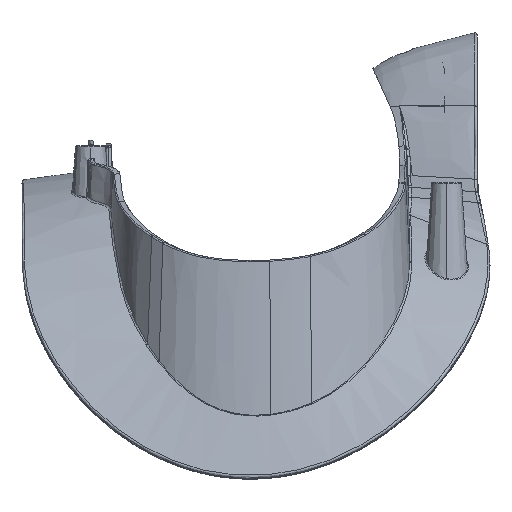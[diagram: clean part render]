
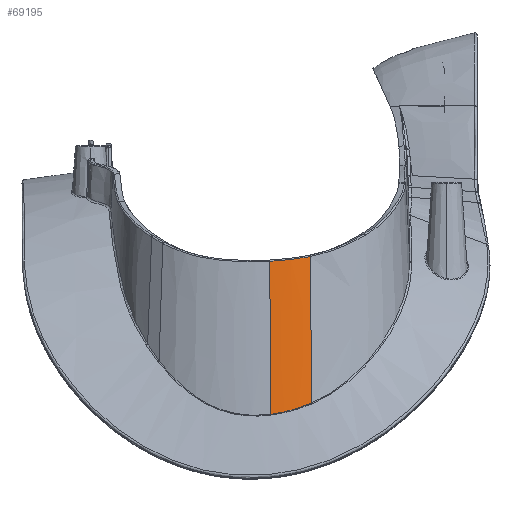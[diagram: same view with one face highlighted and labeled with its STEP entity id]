
A CAD part, left-side view. The second image highlights one B-rep face of the part: STEP entity #69195.
In plain terms, the highlighted free-form (B-spline) face has degree [3, 3] with [9, 4] control points.
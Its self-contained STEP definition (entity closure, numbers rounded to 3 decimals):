
#9129=CARTESIAN_POINT('',(-71.431,-1.546,
-3.011));
#11559=CARTESIAN_POINT('',(-71.802,-10.792,
-34.211));
#11567=CARTESIAN_POINT('',(-73.195,-1.668,
-36.751));
#11729=DIRECTION('',(-0.052,-0.004,-0.999));
#11730=VECTOR('',#11729,33.786);
#11731=CARTESIAN_POINT('',(-71.431,-1.546,
-3.011));
#11732=LINE('',#11731,#11730);
#11736=CARTESIAN_POINT('',(-71.802,-10.792,
-34.211));
#11737=CARTESIAN_POINT('',(-71.835,-10.652,
-34.271));
#11738=CARTESIAN_POINT('',(-71.897,-10.387,
-34.385));
#11739=CARTESIAN_POINT('',(-71.986,-9.995,
-34.548));
#11740=CARTESIAN_POINT('',(-72.07,-9.605,
-34.703));
#11741=CARTESIAN_POINT('',(-72.157,-9.189,
-34.863));
#11742=CARTESIAN_POINT('',(-72.248,-8.729,
-35.032));
#11743=CARTESIAN_POINT('',(-72.346,-8.217,
-35.212));
#11744=CARTESIAN_POINT('',(-72.45,-7.644,
-35.404));
#11745=CARTESIAN_POINT('',(-72.56,-7.003,
-35.607));
#11746=CARTESIAN_POINT('',(-72.669,-6.311,
-35.809));
#11747=CARTESIAN_POINT('',(-72.771,-5.609,
-35.996));
#11748=CARTESIAN_POINT('',(-72.861,-4.938,
-36.161));
#11749=CARTESIAN_POINT('',(-72.938,-4.321,-36.3));
#11750=CARTESIAN_POINT('',(-73.003,-3.757,
-36.416));
#11751=CARTESIAN_POINT('',(-73.056,-3.246,
-36.512));
#11752=CARTESIAN_POINT('',(-73.101,-2.787,
-36.591));
#11753=CARTESIAN_POINT('',(-73.138,-2.378,
-36.655));
#11754=CARTESIAN_POINT('',(-73.169,-2.011,
-36.707));
#11755=CARTESIAN_POINT('',(-73.187,-1.779,
-36.738));
#11756=CARTESIAN_POINT('',(-73.195,-1.668,
-36.751));
#11761=CARTESIAN_POINT('',(-71.431,-1.546,
-3.011));
#11762=CARTESIAN_POINT('',(-71.431,-1.549,
-3.011));
#11763=CARTESIAN_POINT('',(-71.427,-1.598,
-3.008));
#11764=CARTESIAN_POINT('',(-71.42,-1.697,
-3.004));
#11765=CARTESIAN_POINT('',(-71.409,-1.849,
-2.995));
#11766=CARTESIAN_POINT('',(-71.396,-2.014,
-2.986));
#11767=CARTESIAN_POINT('',(-71.381,-2.195,
-2.975));
#11768=CARTESIAN_POINT('',(-71.365,-2.396,
-2.962));
#11769=CARTESIAN_POINT('',(-71.345,-2.619,
-2.948));
#11770=CARTESIAN_POINT('',(-71.323,-2.866,
-2.931));
#11771=CARTESIAN_POINT('',(-71.297,-3.141,
-2.912));
#11772=CARTESIAN_POINT('',(-71.267,-3.446,
-2.889));
#11773=CARTESIAN_POINT('',(-71.232,-3.783,
-2.862));
#11774=CARTESIAN_POINT('',(-71.191,-4.156,
-2.83));
#11775=CARTESIAN_POINT('',(-71.144,-4.566,
-2.793));
#11776=CARTESIAN_POINT('',(-71.088,-5.021,
-2.75));
#11777=CARTESIAN_POINT('',(-71.022,-5.53,
-2.697));
#11778=CARTESIAN_POINT('',(-70.943,-6.096,
-2.634));
#11779=CARTESIAN_POINT('',(-70.854,-6.696,
-2.561));
#11780=CARTESIAN_POINT('',(-70.76,-7.283,
-2.484));
#11781=CARTESIAN_POINT('',(-70.67,-7.819,
-2.409));
#11782=CARTESIAN_POINT('',(-70.586,-8.291,
-2.339));
#11783=CARTESIAN_POINT('',(-70.508,-8.708,
-2.273));
#11784=CARTESIAN_POINT('',(-70.437,-9.079,
-2.212));
#11785=CARTESIAN_POINT('',(-70.37,-9.41,
-2.156));
#11786=CARTESIAN_POINT('',(-70.31,-9.705,
-2.104));
#11787=CARTESIAN_POINT('',(-70.253,-9.969,
-2.055));
#11788=CARTESIAN_POINT('',(-70.201,-10.207,
-2.01));
#11789=CARTESIAN_POINT('',(-70.168,-10.357,
-1.981));
#11790=CARTESIAN_POINT('',(-70.152,-10.428,
-1.967));
#11795=DIRECTION('',(-0.051,-0.011,-0.999));
#11796=VECTOR('',#11795,32.287);
#11797=CARTESIAN_POINT('',(-70.152,-10.428,
-1.967));
#11798=LINE('',#11797,#11796);
#25839=VERTEX_POINT('',#9129);
#25841=CARTESIAN_POINT('',(-70.152,-10.428,
-1.967));
#25843=VERTEX_POINT('',#25841);
#26004=VERTEX_POINT('',#11559);
#26005=VERTEX_POINT('',#11567);
#69151=CARTESIAN_POINT('',(-73.244,-1.483,
-37.444));
#69152=CARTESIAN_POINT('',(-72.632,-1.44,
-25.748));
#69153=CARTESIAN_POINT('',(-72.021,-1.397,
-14.051));
#69154=CARTESIAN_POINT('',(-71.409,-1.353,
-2.355));
#69155=CARTESIAN_POINT('',(-73.239,-1.545,
-37.438));
#69156=CARTESIAN_POINT('',(-72.628,-1.501,
-25.742));
#69157=CARTESIAN_POINT('',(-72.017,-1.457,
-14.046));
#69158=CARTESIAN_POINT('',(-71.405,-1.413,
-2.349));
#69159=CARTESIAN_POINT('',(-73.186,-2.285,
-37.369));
#69160=CARTESIAN_POINT('',(-72.575,-2.234,
-25.672));
#69161=CARTESIAN_POINT('',(-71.964,-2.183,
-13.976));
#69162=CARTESIAN_POINT('',(-71.353,-2.131,
-2.28));
#69163=CARTESIAN_POINT('',(-73.038,-3.968,
-37.173));
#69164=CARTESIAN_POINT('',(-72.428,-3.901,
-25.477));
#69165=CARTESIAN_POINT('',(-71.819,-3.833,
-13.78));
#69166=CARTESIAN_POINT('',(-71.209,-3.765,
-2.084));
#69167=CARTESIAN_POINT('',(-72.671,-6.754,
-36.683));
#69168=CARTESIAN_POINT('',(-72.065,-6.661,
-24.987));
#69169=CARTESIAN_POINT('',(-71.459,-6.567,
-13.291));
#69170=CARTESIAN_POINT('',(-70.854,-6.473,
-1.594));
#69171=CARTESIAN_POINT('',(-72.228,-9.215,
-36.087));
#69172=CARTESIAN_POINT('',(-71.627,-9.096,
-24.391));
#69173=CARTESIAN_POINT('',(-71.026,-8.976,
-12.695));
#69174=CARTESIAN_POINT('',(-70.424,-8.857,
-0.999));
#69175=CARTESIAN_POINT('',(-71.975,-10.376,
-35.755));
#69176=CARTESIAN_POINT('',(-71.377,-10.242,
-24.059));
#69177=CARTESIAN_POINT('',(-70.778,-10.109,
-12.362));
#69178=CARTESIAN_POINT('',(-70.18,-9.975,
-0.666));
#69179=CARTESIAN_POINT('',(-71.843,-10.943,
-35.582));
#69180=CARTESIAN_POINT('',(-71.246,-10.803,
-23.886));
#69181=CARTESIAN_POINT('',(-70.649,-10.663,
-12.189));
#69182=CARTESIAN_POINT('',(-70.053,-10.523,
-0.493));
#69183=CARTESIAN_POINT('',(-71.83,-11.,
-35.564));
#69184=CARTESIAN_POINT('',(-71.233,-10.86,
-23.868));
#69185=CARTESIAN_POINT('',(-70.636,-10.72,
-12.172));
#69186=CARTESIAN_POINT('',(-70.04,-10.579,
-0.475));
#69187=B_SPLINE_SURFACE_WITH_KNOTS('',3,3,((#69151,#69152,#69153,#69154),
(#69155,#69156,#69157,#69158),(#69159,#69160,#69161,#69162),(#69163,#69164,
#69165,#69166),(#69167,#69168,#69169,#69170),(#69171,#69172,#69173,#69174),(
#69175,#69176,#69177,#69178),(#69179,#69180,#69181,#69182),(#69183,#69184,
#69185,#69186)),.UNSPECIFIED.,.F.,.F.,.F.,(4,1,1,1,1,1,4),(4,4),(
-0.023,0.,0.25,0.5,0.75,
1.,1.029),(0.,1.),.UNSPECIFIED.);
#69188=ORIENTED_EDGE('',*,*,#68858,.T.);
#69189=ORIENTED_EDGE('',*,*,#69146,.F.);
#69190=ORIENTED_EDGE('',*,*,#56565,.T.);
#69192=ORIENTED_EDGE('',*,*,#69191,.T.);
#69193=EDGE_LOOP('',(#69188,#69189,#69190,#69192));
#69194=FACE_OUTER_BOUND('',#69193,.F.);
#69195=ADVANCED_FACE('',(#69194),#69187,.T.);
#11757=B_SPLINE_CURVE_WITH_KNOTS('',3,(#11736,#11737,#11738,#11739,#11740,
#11741,#11742,#11743,#11744,#11745,#11746,#11747,#11748,#11749,#11750,#11751,
#11752,#11753,#11754,#11755,#11756),.UNSPECIFIED.,.F.,.F.,(4,1,1,1,1,1,1,1,1,1,
1,1,1,1,1,1,1,1,4),(0.,0.049,0.092,0.135,
0.182,0.234,0.291,0.354,
0.425,0.503,0.582,0.655,
0.721,0.781,0.835,0.884,
0.927,0.965,1.),.UNSPECIFIED.);
#11791=B_SPLINE_CURVE_WITH_KNOTS('',3,(#11761,#11762,#11763,#11764,#11765,
#11766,#11767,#11768,#11769,#11770,#11771,#11772,#11773,#11774,#11775,#11776,
#11777,#11778,#11779,#11780,#11781,#11782,#11783,#11784,#11785,#11786,#11787,
#11788,#11789,#11790),.UNSPECIFIED.,.F.,.F.,(4,1,1,1,1,1,1,1,1,1,1,1,1,1,1,1,1,
1,1,1,1,1,1,1,1,1,1,4),(0.,0.001,0.016,
0.033,0.051,0.071,0.094,
0.118,0.146,0.176,0.21,
0.247,0.289,0.335,0.385,
0.442,0.506,0.576,0.644,
0.705,0.758,0.805,0.847,
0.884,0.918,0.948,0.975,1.),
.UNSPECIFIED.);
#56565=EDGE_CURVE('',#25839,#25843,#11791,.T.);
#68858=EDGE_CURVE('',#26004,#26005,#11757,.T.);
#69146=EDGE_CURVE('',#25839,#26005,#11732,.T.);
#69191=EDGE_CURVE('',#25843,#26004,#11798,.T.);
